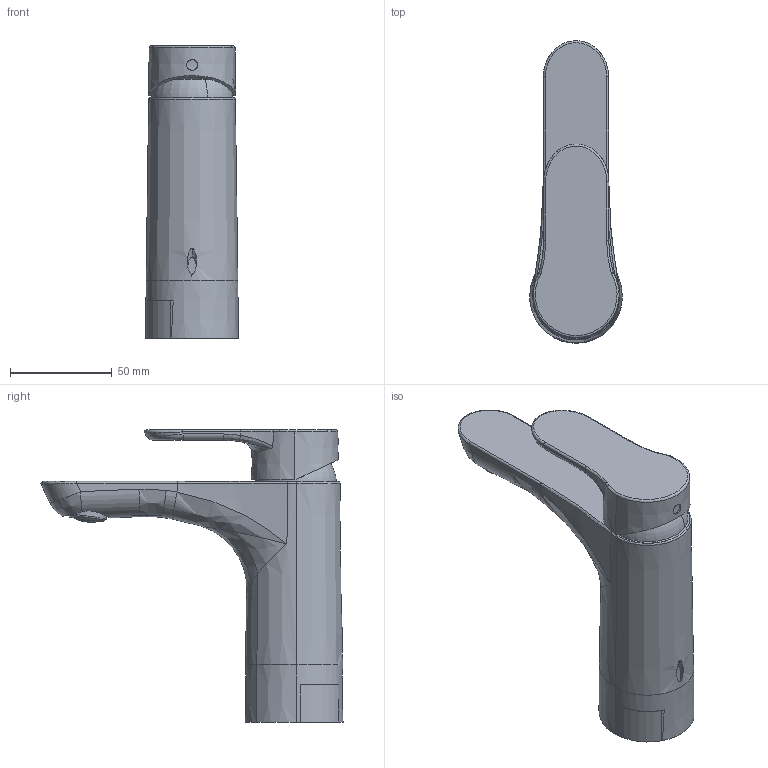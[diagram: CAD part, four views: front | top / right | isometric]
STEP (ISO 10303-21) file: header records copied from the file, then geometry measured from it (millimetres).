
FILE_DESCRIPTION (( 'STEP AP203' ), '1' );
FILE_NAME ('AALB038CR x architetti.STEP', '2023-10-27T12:12:15', ( '' ), ( '' ), 'SwSTEP 2.0', 'SolidWorks 2020', '' );
FILE_SCHEMA (( 'CONFIG_CONTROL_DESIGN' ));
Length unit declared in the file: millimetre
Products named in the file (1): AALB038CR x architetti
Bounding box: 45.39 x 148.11 x 143.25 mm (x, y, z)
Volume: 278004.8 mm3; surface area: 49078 mm2
Topology: 1 solids, 2 shells, 2086 faces, 5992 edges, 3764 vertices
Faces by surface type: bspline 907, plane 867, cylinder 269, cone 36, torus 7
Entity records: 96715 total; most frequent: CARTESIAN_POINT 51856, ORIENTED_EDGE 11572, DIRECTION 6581, EDGE_CURVE 5786, VERTEX_POINT 3764, AXIS2_PLACEMENT_3D 2321, EDGE_LOOP 2168, B_SPLINE_CURVE_WITH_KNOTS 2132
